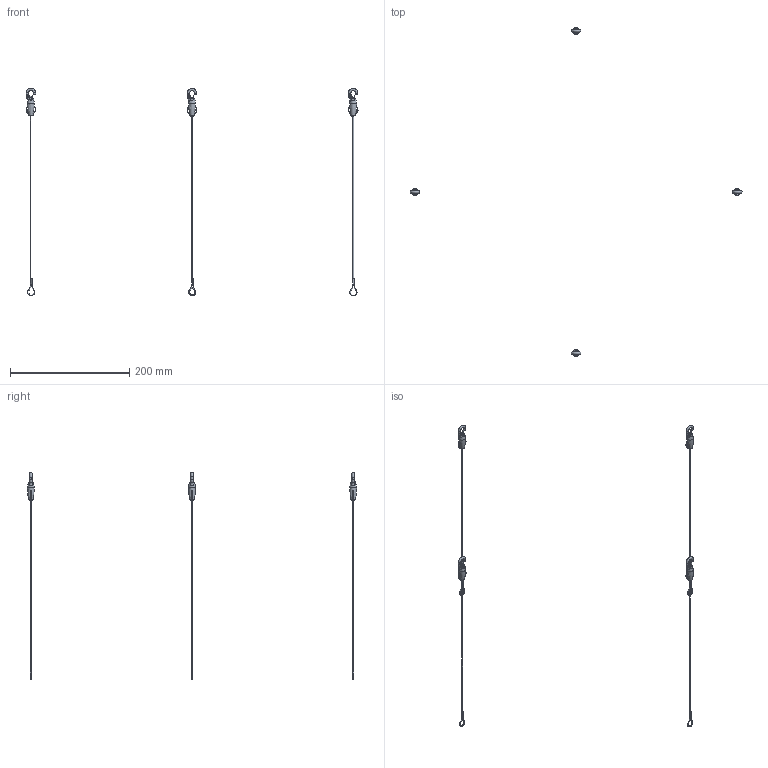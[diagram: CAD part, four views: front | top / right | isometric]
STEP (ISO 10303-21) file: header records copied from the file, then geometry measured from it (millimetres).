
FILE_DESCRIPTION(/* description */ (''),/* implementation_level */ '2;1');
FILE_NAME(/* name */ 'A900-S-GM.stp',/* time_stamp */ '2022-04-13T13:55:49-05:00',/* author */ (''),/* organization */ (''),/* preprocessor_version */ 'ST-DEVELOPER v16.7',/* originating_system */ 'SIEMENS PLM Software NX 1899',/* authorisation */ '');
FILE_SCHEMA (('AUTOMOTIVE_DESIGN { 1 0 10303 214 3 1 1 1 }'));
Length unit declared in the file: millimetre
Products named in the file (1): 10000447798m3d000_-
Bounding box: 556.24 x 551.5 x 348.09 mm (x, y, z)
Volume: 14168.3 mm3; surface area: 13783 mm2
Topology: 4 solids, 4 shells, 228 faces, 624 edges, 392 vertices
Faces by surface type: plane 112, torus 36, bspline 32, cylinder 32, sphere 16
Full cylindrical faces by diameter (mm): 1.6 x8, 4 x8
Entity records: 8123 total; most frequent: CARTESIAN_POINT 2941, ORIENTED_EDGE 1080, DIRECTION 994, EDGE_CURVE 540, AXIS2_PLACEMENT_3D 401, VERTEX_POINT 364, EDGE_LOOP 296, ADVANCED_FACE 228
